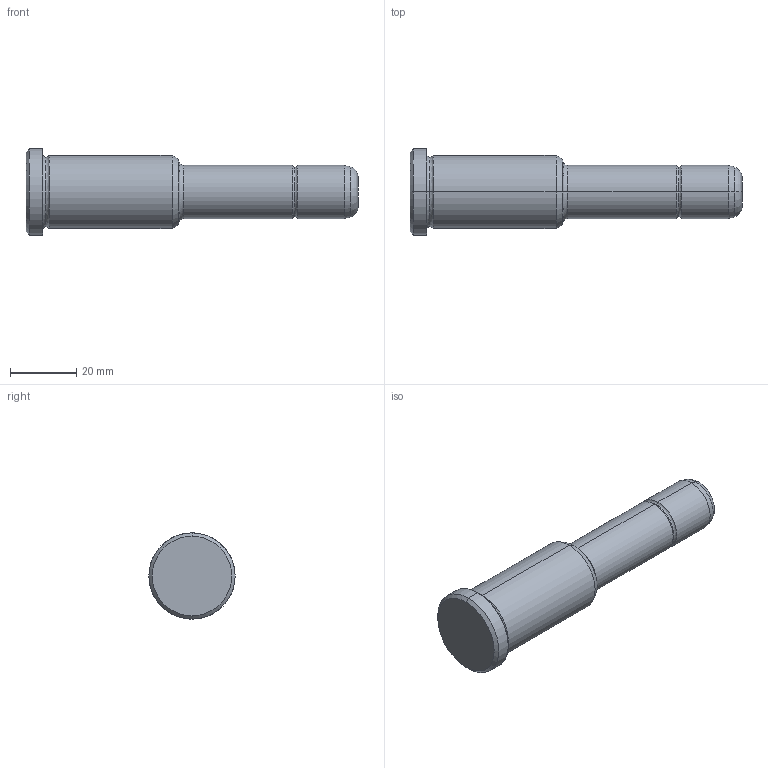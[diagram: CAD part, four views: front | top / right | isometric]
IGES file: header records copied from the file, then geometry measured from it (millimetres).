
Start section: START RECORD GO HERE.
Global section: file name: 351-16X46X100.igs; native system: DASSAULT SYSTEMES CATIA V5 R20 - www.3ds.com; preprocessor: CATIA Version 5 Release 20 ; author: Utente; organization: NB04-ASUS; date: 20210818.132329; units: millimetre
Bounding box: 100 x 26 x 26 mm (x, y, z)
Surface area: 6821.5 mm2 (no closed solid volume)
Topology: 0 solids, 0 shells, 30 faces, 172 edges, 172 vertices
Faces by surface type: revolution 26, plane 4
